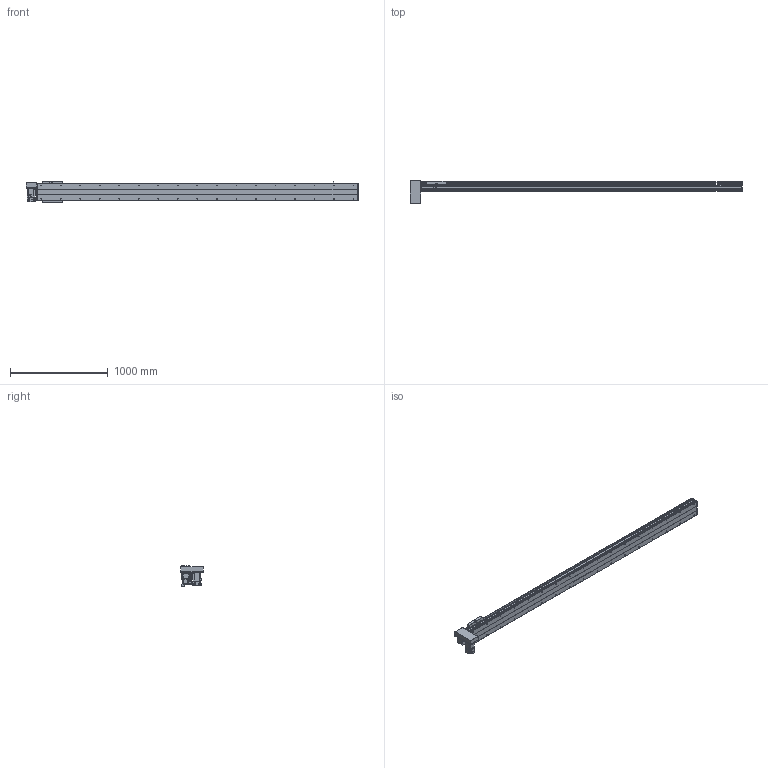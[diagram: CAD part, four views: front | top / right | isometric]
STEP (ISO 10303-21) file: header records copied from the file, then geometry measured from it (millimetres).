
FILE_DESCRIPTION(/* description */ ('STEP AP214'),/* implementation_level */ '2;1');
FILE_NAME(/* name */ 'PBS200-P40-S2900-RD-T75-C1-N(0)',/* time_stamp */ '2022-06-11T09:32:26+02:00',/* author */ ('License CC BY-ND 4.0'),/* organization */ ('CADENAS'),/* preprocessor_version */ 'ST-DEVELOPER v18.102',/* originating_system */ 'PARTsolutions',/* authorisation */ ' ');
FILE_SCHEMA (('AUTOMOTIVE_DESIGN {1 0 10303 214 3 1 1}'));
Length unit declared in the file: millimetre
Products named in the file (7): PBS200-P40-S2900-RD-T75-C1-N(0); PBS200_sensor; PBS200_plant; PBS200_sliser; T75-p1; PBS200T-RD_motors; PBS200-S2900()_body
Assembly tree (8 placements, depth 2):
  PBS200-P40-S2900-RD-T75-C1-N(0)
    PBS200_sensor  x3
    PBS200_plant
    PBS200_sliser
    T75-p1
    PBS200T-RD_motors
    PBS200-S2900()_body
Bounding box: 3400 x 230 x 221 mm (x, y, z)
Volume: 23102084 mm3; surface area: 3689933.9 mm2
Topology: 8 solids, 8 shells, 974 faces, 2464 edges, 1602 vertices
Faces by surface type: plane 592, cylinder 316, cone 66
Full cylindrical faces by diameter (mm): 2.459 x6, 3.242 x4, 4.5 x6, 4.917 x4, 5 x6, 6 x7, 6.6 x8, 6.647 x38, 8 x6, 10 x4, 12 x8, 38 x2, 40 x1, 70 x1
Entity records: 25661 total; most frequent: DIRECTION 4543, CARTESIAN_POINT 4354, ORIENTED_EDGE 4090, EDGE_CURVE 2045, AXIS2_PLACEMENT_3D 1615, VERTEX_POINT 1426, LINE 1313, VECTOR 1313
